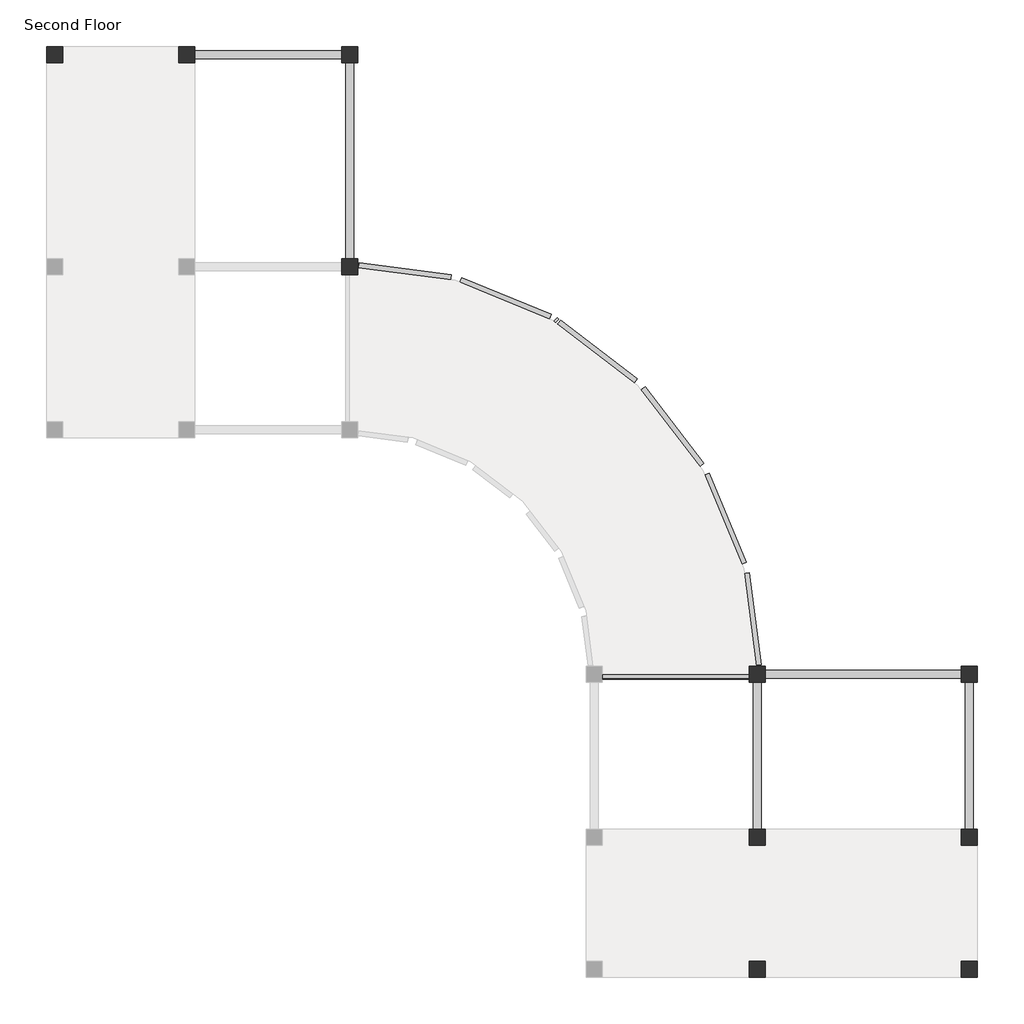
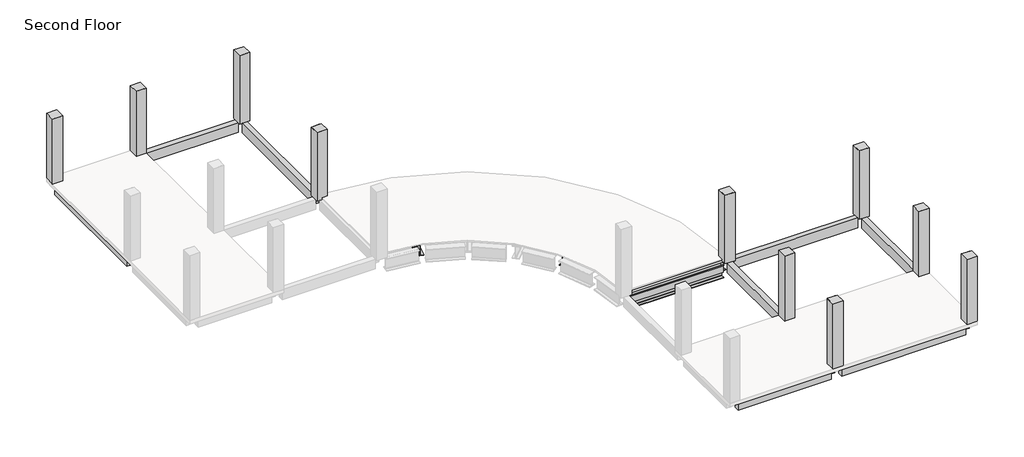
# One storey, part 2 of 2: 26 beams, 20 columns.
"""IFC4 building model written with IfcOpenShell, lengths in millimetres."""

from ifc_helpers import new_model, si_unit, frame, origin, place, context, project, spatial, polyline, outline, extrude, faceted_brep, transform, mapped, element, save
from components import w760x350_2a258063, w760x350_6f162b3c, w760x350_c36f9bc7, w760x350_5a9d4526, w760x350_679bfba7, w760x350_413a21e1, w760x350_305620d7, w760x350_b96b6d01

model = new_model("IFC4")

# Units and contexts
model_context = context("Model", 3, world=origin())
ifc_project = project(units=[si_unit("LENGTHUNIT", "METRE", prefix="MILLI")], contexts=[model_context])

# Site, building, storey
site = spatial("IfcSite", under=ifc_project)
building = spatial("IfcBuilding", under=site)
storey = spatial("IfcBuildingStorey", under=building, Name="Second Floor", Elevation=3048.0)

# Beams
placement = place(None, origin())
element("IfcBeam", 1, ObjectType="M_Concrete-Rectangular Beam : 300 x 600mm", at=placement, inside=storey, context=model_context, shape_type="SweptSolid", body=[
    extrude(outline(polyline([(-16304.9035319, 4112.1636035), (-16304.9035319, 4412.1636035), (-10808.9035319, 4412.1636035), (-10808.9035319, 4112.1636035), (-16304.9035319, 4112.1636035)])), frame((0.0, 0.0, 2448.0), z_axis=(0.0, 0.0, 1.0), x_axis=(1.0, 0.0, 0.0)), (0.0, 0.0, 1.0), 600.0),
])
element("IfcBeam", 2, ObjectType="M_Concrete-Rectangular Beam : 300 x 600mm", at=placement, inside=storey, context=model_context, shape_type="SweptSolid", body=[
    extrude(outline(polyline([(-21244.300634, 4112.1636035), (-21244.300634, 4412.1636035), (-16904.9035319, 4412.1636035), (-16904.9035319, 4112.1636035), (-21244.300634, 4112.1636035)])), frame((0.0, 0.0, 2448.0), z_axis=(0.0, 0.0, 1.0), x_axis=(1.0, 0.0, 0.0)), (0.0, 0.0, 1.0), 510.0),
])
element("IfcBeam", 3, ObjectType="M_Concrete-Rectangular Beam : 300 x 600mm", at=placement, inside=storey, context=model_context, shape_type="SweptSolid", body=[
    extrude(outline(polyline([(-21394.300634, -3362.8363965), (-21694.300634, -3362.8363965), (-21694.300634, 3962.1636035), (-21394.300634, 3962.1636035), (-21394.300634, -3362.8363965)])), frame((0.0, 0.0, 2448.0), z_axis=(0.0, 0.0, 1.0), x_axis=(1.0, 0.0, 0.0)), (0.0, 0.0, 1.0), 510.0),
])
element("IfcBeam", 4, ObjectType="M_Concrete-Rectangular Beam : 300 x 600mm", at=placement, inside=storey, context=model_context, shape_type="SweptSolid", body=[
    extrude(outline(polyline([(-16454.9035319, -3362.8363965), (-16754.9035319, -3362.8363965), (-16754.9035319, 3962.1636035), (-16454.9035319, 3962.1636035), (-16454.9035319, -3362.8363965)])), frame((0.0, 0.0, 2448.0), z_axis=(0.0, 0.0, 1.0), x_axis=(1.0, 0.0, 0.0)), (0.0, 0.0, 1.0), 510.0),
])
element("IfcBeam", 5, ObjectType="M_Concrete-Rectangular Beam : 300 x 600mm", at=placement, inside=storey, context=model_context, shape_type="SweptSolid", body=[
    extrude(outline(polyline([(-10358.9035319, -3362.8363965), (-10658.9035319, -3362.8363965), (-10658.9035319, 3962.1636035), (-10358.9035319, 3962.1636035), (-10358.9035319, -3362.8363965)])), frame((0.0, 0.0, 2448.0), z_axis=(0.0, 0.0, 1.0), x_axis=(1.0, 0.0, 0.0)), (0.0, 0.0, 1.0), 600.0),
])
element("IfcBeam", 6, ObjectType="M_Concrete-Rectangular Beam : 300 x 600mm", at=placement, inside=storey, context=model_context, shape_type="SweptSolid", body=[
    extrude(outline(polyline([(12806.0964681, -24698.8363965), (12506.0964681, -24698.8363965), (12506.0964681, -19202.8363965), (12806.0964681, -19202.8363965), (12806.0964681, -24698.8363965)])), frame((0.0, 0.0, 2448.0), z_axis=(0.0, 0.0, 1.0), x_axis=(1.0, 0.0, 0.0)), (0.0, 0.0, 1.0), 600.0),
])
element("IfcBeam", 7, ObjectType="M_Concrete-Rectangular Beam : 300 x 600mm", at=placement, inside=storey, context=model_context, shape_type="SweptSolid", body=[
    extrude(outline(polyline([(12806.0964681, -29638.2334986), (12506.0964681, -29638.2334986), (12506.0964681, -25298.8363965), (12806.0964681, -25298.8363965), (12806.0964681, -29638.2334986)])), frame((0.0, 0.0, 2448.0), z_axis=(0.0, 0.0, 1.0), x_axis=(1.0, 0.0, 0.0)), (0.0, 0.0, 1.0), 510.0),
])
element("IfcBeam", 8, ObjectType="M_Concrete-Rectangular Beam : 300 x 600mm", at=placement, inside=storey, context=model_context, shape_type="SweptSolid", body=[
    extrude(outline(polyline([(4881.0964681, -24698.8363965), (4581.0964681, -24698.8363965), (4581.0964681, -19202.8363965), (4881.0964681, -19202.8363965), (4881.0964681, -24698.8363965)])), frame((0.0, 0.0, 2448.0), z_axis=(0.0, 0.0, 1.0), x_axis=(1.0, 0.0, 0.0)), (0.0, 0.0, 1.0), 600.0),
])
element("IfcBeam", 9, ObjectType="M_Concrete-Rectangular Beam : 300 x 600mm", at=placement, inside=storey, context=model_context, shape_type="SweptSolid", body=[
    extrude(outline(polyline([(4881.0964681, -29638.2334986), (4581.0964681, -29638.2334986), (4581.0964681, -25298.8363965), (4881.0964681, -25298.8363965), (4881.0964681, -29638.2334986)])), frame((0.0, 0.0, 2448.0), z_axis=(0.0, 0.0, 1.0), x_axis=(1.0, 0.0, 0.0)), (0.0, 0.0, 1.0), 510.0),
])
element("IfcBeam", 10, ObjectType="M_Concrete-Rectangular Beam : 300 x 600mm", at=placement, inside=storey, context=model_context, shape_type="SweptSolid", body=[
    extrude(outline(polyline([(5031.0964681, -30088.2334986), (5031.0964681, -29788.2334986), (12356.0964681, -29788.2334986), (12356.0964681, -30088.2334986), (5031.0964681, -30088.2334986)])), frame((0.0, 0.0, 2448.0), z_axis=(0.0, 0.0, 1.0), x_axis=(1.0, 0.0, 0.0)), (0.0, 0.0, 1.0), 510.0),
])
element("IfcBeam", 11, ObjectType="M_Concrete-Rectangular Beam : 300 x 600mm", at=placement, inside=storey, context=model_context, shape_type="SweptSolid", body=[
    extrude(outline(polyline([(-1064.9035319, -30088.2334986), (-1064.9035319, -29788.2334986), (4431.0964681, -29788.2334986), (4431.0964681, -30088.2334986), (-1064.9035319, -30088.2334986)])), frame((0.0, 0.0, 2448.0), z_axis=(0.0, 0.0, 1.0), x_axis=(1.0, 0.0, 0.0)), (0.0, 0.0, 1.0), 510.0),
])
element("IfcBeam", 12, ObjectType="M_Concrete-Rectangular Beam : 300 x 600mm", at=placement, inside=storey, context=model_context, shape_type="SweptSolid", body=[
    extrude(outline(polyline([(-1064.9035319, -25148.8363965), (-1064.9035319, -24848.8363965), (4431.0964681, -24848.8363965), (4431.0964681, -25148.8363965), (-1064.9035319, -25148.8363965)])), frame((0.0, 0.0, 2448.0), z_axis=(0.0, 0.0, 1.0), x_axis=(1.0, 0.0, 0.0)), (0.0, 0.0, 1.0), 510.0),
])
element("IfcBeam", 13, ObjectType="M_Concrete-Rectangular Beam : 300 x 600mm", at=placement, inside=storey, context=model_context, shape_type="SweptSolid", body=[
    extrude(outline(polyline([(5031.0964681, -25148.8363965), (5031.0964681, -24848.8363965), (12356.0964681, -24848.8363965), (12356.0964681, -25148.8363965), (5031.0964681, -25148.8363965)])), frame((0.0, 0.0, 2448.0), z_axis=(0.0, 0.0, 1.0), x_axis=(1.0, 0.0, 0.0)), (0.0, 0.0, 1.0), 510.0),
])
element("IfcBeam", 14, ObjectType="M_Concrete-Rectangular Beam : 300 x 600mm", at=placement, inside=storey, context=model_context, shape_type="SweptSolid", body=[
    extrude(outline(polyline([(-1064.9035319, -19052.8363965), (-1064.9035319, -18752.8363965), (4431.0964681, -18752.8363965), (4431.0964681, -19052.8363965), (-1064.9035319, -19052.8363965)])), frame((0.0, 0.0, 2448.0), z_axis=(0.0, 0.0, 1.0), x_axis=(1.0, 0.0, 0.0)), (0.0, 0.0, 1.0), 600.0),
])
element("IfcBeam", 15, ObjectType="M_Concrete-Rectangular Beam : 300 x 600mm", at=placement, inside=storey, context=model_context, shape_type="SweptSolid", body=[
    extrude(outline(polyline([(5031.0964681, -19052.8363965), (5031.0964681, -18752.8363965), (12356.0964681, -18752.8363965), (12356.0964681, -19052.8363965), (5031.0964681, -19052.8363965)])), frame((0.0, 0.0, 2448.0), z_axis=(0.0, 0.0, 1.0), x_axis=(1.0, 0.0, 0.0)), (0.0, 0.0, 1.0), 600.0),
])
w760x350_shape = w760x350_2a258063(model_context)
element("IfcBeam", 16, ObjectType="M_W-Wide Flange : W760X350", at=placement, inside=storey, context=model_context, shape_type="MappedRepresentation", body=[
    mapped(w760x350_shape, transform((1683.0964681, -18902.8363965, 2523.5), x_axis=(-1.0, 0.0, 0.0), y_axis=(0.0, -1.0, 0.0), z_axis=(0.0, 0.0, 1.0))),
])
w760x350_2_shape = w760x350_6f162b3c(model_context)
element("IfcBeam", 17, ObjectType="M_W-Wide Flange : W760X350", at=placement, inside=storey, context=model_context, shape_type="MappedRepresentation", body=[
    mapped(w760x350_2_shape, transform((-2853.5481928, -5739.9645819, 2523.5), x_axis=(0.7071067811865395, -0.7071067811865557, 0.0), y_axis=(0.7071067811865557, 0.7071067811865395, 0.0), z_axis=(0.0, 0.0, 1.0))),
])
w760x350_3_shape = w760x350_c36f9bc7(model_context)
element("IfcBeam", 18, ObjectType="M_W-Wide Flange : W760X350", at=placement, inside=storey, context=model_context, shape_type="MappedRepresentation", body=[
    mapped(w760x350_3_shape, transform((-7353.381734, -7126.2687224, 2523.5), x_axis=(0.258819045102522, 0.965925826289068, 0.0), y_axis=(-0.965925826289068, 0.258819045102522, 0.0), z_axis=(0.0, 0.0, 1.0))),
])
element("IfcBeam", 19, ObjectType="M_W-Wide Flange : W760X350", at=placement, inside=storey, context=model_context, shape_type="MappedRepresentation", body=[
    mapped(w760x350_3_shape, transform((49.6781911, -12806.8363965, 2523.5), x_axis=(0.8660254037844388, 0.49999999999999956, 0.0), y_axis=(-0.49999999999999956, 0.8660254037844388, 0.0), z_axis=(0.0, 0.0, 1.0))),
])
element("IfcBeam", 20, ObjectType="M_W-Wide Flange : W760X350", at=placement, inside=storey, context=model_context, shape_type="MappedRepresentation", body=[
    mapped(w760x350_3_shape, transform((1267.6641423, -15747.3145986, 2523.5), x_axis=(0.9659258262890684, 0.2588190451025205, 0.0), y_axis=(-0.2588190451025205, 0.9659258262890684, 0.0), z_axis=(0.0, 0.0, 1.0))),
])
w760x350_4_shape = w760x350_5a9d4526(model_context)
element("IfcBeam", 21, ObjectType="M_W-Wide Flange : W760X350", at=placement, inside=storey, context=model_context, shape_type="MappedRepresentation", body=[
    mapped(w760x350_4_shape, transform((-1332.8922259, -6893.6419593, 2523.5), x_axis=(0.7953971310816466, -0.6060886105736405, 0.0), y_axis=(0.6060886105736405, 0.7953971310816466, 0.0), z_axis=(0.0, 0.0, 1.0))),
])
w760x350_5_shape = w760x350_679bfba7(model_context)
element("IfcBeam", 22, ObjectType="M_W-Wide Flange : W760X350", at=placement, inside=storey, context=model_context, shape_type="MappedRepresentation", body=[
    mapped(w760x350_5_shape, transform((1478.3637176, -9704.6827239, 2523.5), x_axis=(0.6087614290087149, -0.7933533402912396, 0.0), y_axis=(0.7933533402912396, 0.6087614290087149, 0.0), z_axis=(0.0, 0.0, 1.0))),
])
element("IfcBeam", 23, ObjectType="M_W-Wide Flange : W760X350", at=placement, inside=storey, context=model_context, shape_type="MappedRepresentation", body=[
    mapped(w760x350_5_shape, transform((3450.5648413, -13120.6352728, 2523.5), x_axis=(0.3826834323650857, -0.9238795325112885, 0.0), y_axis=(0.9238795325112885, 0.3826834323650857, 0.0), z_axis=(0.0, 0.0, 1.0))),
])
w760x350_6_shape = w760x350_413a21e1(model_context)
element("IfcBeam", 24, ObjectType="M_W-Wide Flange : W760X350", at=placement, inside=storey, context=model_context, shape_type="MappedRepresentation", body=[
    mapped(w760x350_6_shape, transform((4471.4512645, -16930.6352728, 2523.5), x_axis=(0.1305261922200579, -0.9914448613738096, 0.0), y_axis=(0.9914448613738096, 0.1305261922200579, 0.0), z_axis=(0.0, 0.0, 1.0))),
])
w760x350_7_shape = w760x350_305620d7(model_context)
element("IfcBeam", 25, ObjectType="M_W-Wide Flange : W760X350", at=placement, inside=storey, context=model_context, shape_type="MappedRepresentation", body=[
    mapped(w760x350_7_shape, transform((-8536.7024082, -3922.4816002, 2523.5), x_axis=(0.9914448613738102, -0.1305261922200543, 0.0), y_axis=(0.1305261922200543, 0.9914448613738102, 0.0), z_axis=(0.0, 0.0, 1.0))),
])
w760x350_8_shape = w760x350_b96b6d01(model_context)
element("IfcBeam", 26, ObjectType="M_W-Wide Flange : W760X350", at=placement, inside=storey, context=model_context, shape_type="MappedRepresentation", body=[
    mapped(w760x350_8_shape, transform((-4752.0478576, -4925.7348849, 2523.5), x_axis=(0.9251619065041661, -0.37957271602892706, 0.0), y_axis=(0.37957271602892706, 0.9251619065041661, 0.0), z_axis=(0.0, 0.0, 1.0))),
])

# Columns
element("IfcColumn", 27, ObjectType="M_Concrete-Rectangular-Column : 600 x 600mm", at=placement, inside=storey, context=model_context, shape_type="SweptSolid", body=[
    extrude(outline(polyline([(-21844.300634, 3962.1636035), (-21844.300634, 4562.1636035), (-21244.300634, 4562.1636035), (-21244.300634, 3962.1636035), (-21844.300634, 3962.1636035)])), frame((0.0, 0.0, 3168.0), z_axis=(0.0, 0.0, 1.0), x_axis=(1.0, 0.0, 0.0)), (0.0, 0.0, 1.0), 4057.0),
])
element("IfcColumn", 28, ObjectType="M_Concrete-Rectangular-Column : 600 x 600mm", at=placement, inside=storey, context=model_context, shape_type="SweptSolid", body=[
    extrude(outline(polyline([(-16904.9035319, 3962.1636035), (-16904.9035319, 4562.1636035), (-16304.9035319, 4562.1636035), (-16304.9035319, 3962.1636035), (-16904.9035319, 3962.1636035)])), frame((0.0, 0.0, 3168.0), z_axis=(0.0, 0.0, 1.0), x_axis=(1.0, 0.0, 0.0)), (0.0, 0.0, 1.0), 4057.0),
])
element("IfcColumn", 29, ObjectType="M_Concrete-Rectangular-Column : 600 x 600mm", at=placement, inside=storey, context=model_context, shape_type="Brep", body=[
    faceted_brep([(-10808.9035319, -3962.8363965, 3048.0), (-10808.9035319, -3362.8363965, 3048.0), (-10208.9035319, -3362.8363965, 3048.0), (-10208.9035319, -3962.8363965, 3048.0), (-10808.9035319, -3962.8363965, 7315.0), (-10808.9035319, -3362.8363965, 7315.0), (-10208.9035319, -3362.8363965, 7315.0), (-10208.9035319, -3962.8363965, 7315.0), (-10208.9035319, -3962.8363965, 3168.0), (-10208.9035319, -3702.3321458, 3168.0), (-10208.9035319, -3702.3321458, 3093.0), (-10208.9035319, -3962.8363965, 3093.0), (-10508.9035319, -3962.8363965, 3093.0), (-10508.9035319, -3962.8363965, 3168.0), (-10508.9035319, -3662.8363965, 3093.0), (-10508.9035319, -3662.8363965, 3168.0)], [[[0, 1, 2, 3]], [[1, 0, 4, 5]], [[2, 1, 5, 6]], [[3, 2, 6, 7, 8, 9, 10, 11]], [[0, 3, 11, 12, 13, 8, 7, 4]], [[5, 4, 7, 6]], [[14, 12, 11, 10]], [[15, 9, 8, 13]], [[15, 14, 10, 9]], [[14, 15, 13, 12]]]),
])
element("IfcColumn", 30, ObjectType="M_Concrete-Rectangular-Column : 600 x 600mm", at=placement, inside=storey, context=model_context, shape_type="SweptSolid", body=[
    extrude(outline(polyline([(-10808.9035319, 3962.1636035), (-10808.9035319, 4562.1636035), (-10208.9035319, 4562.1636035), (-10208.9035319, 3962.1636035), (-10808.9035319, 3962.1636035)])), frame((0.0, 0.0, 3048.0), z_axis=(0.0, 0.0, 1.0), x_axis=(1.0, 0.0, 0.0)), (0.0, 0.0, 1.0), 4267.0),
])
element("IfcColumn", 31, ObjectType="M_Concrete-Rectangular-Column : 600 x 600mm", at=placement, inside=storey, context=model_context, shape_type="Brep", body=[
    faceted_brep([(-21844.300634, 3962.1636035, 7225.0), (-21844.300634, 4562.1636035, 7225.0), (-21844.300634, 4562.1636035, 3168.0), (-21844.300634, 3962.1636035, 3168.0), (-21244.300634, 4562.1636035, 7225.0), (-21244.300634, 4562.1636035, 3168.0), (-21244.300634, 4412.1636035, 7225.0), (-21244.300634, 4112.1636035, 7225.0), (-21244.300634, 3962.1636035, 7225.0), (-21244.300634, 3962.1636035, 3168.0), (-21394.300634, 3962.1636035, 7225.0), (-21694.300634, 3962.1636035, 7225.0)], [[[0, 1, 2, 3]], [[1, 4, 5, 2]], [[4, 6, 7, 8, 9, 5]], [[8, 10, 11, 0, 3, 9]], [[1, 0, 11, 10, 8, 7, 6, 4]], [[3, 2, 5, 9]]]),
])
element("IfcColumn", 32, ObjectType="M_Concrete-Rectangular-Column : 600 x 600mm", at=placement, inside=storey, context=model_context, shape_type="Brep", body=[
    faceted_brep([(-16904.9035319, 3962.1636035, 7225.0), (-16904.9035319, 4112.1636035, 7225.0), (-16904.9035319, 4412.1636035, 7225.0), (-16904.9035319, 4562.1636035, 7225.0), (-16904.9035319, 4562.1636035, 3168.0), (-16904.9035319, 3962.1636035, 3168.0), (-16304.9035319, 4562.1636035, 7225.0), (-16304.9035319, 4562.1636035, 3168.0), (-16304.9035319, 3962.1636035, 7225.0), (-16304.9035319, 3962.1636035, 3168.0), (-16454.9035319, 3962.1636035, 7225.0), (-16754.9035319, 3962.1636035, 7225.0)], [[[0, 1, 2, 3, 4, 5]], [[3, 6, 7, 4]], [[6, 8, 9, 7]], [[8, 10, 11, 0, 5, 9]], [[3, 2, 1, 0, 11, 10, 8, 6]], [[5, 4, 7, 9]]]),
])
element("IfcColumn", 33, ObjectType="M_Concrete-Rectangular-Column : 600 x 600mm", at=placement, inside=storey, context=model_context, shape_type="Brep", body=[
    faceted_brep([(-10808.9035319, -3962.8363965, 3048.0), (-10808.9035319, -3362.8363965, 3048.0), (-10208.9035319, -3362.8363965, 3048.0), (-10208.9035319, -3962.8363965, 3048.0), (-10808.9035319, -3962.8363965, 7315.0), (-10808.9035319, -3812.8363965, 7315.0), (-10808.9035319, -3512.8363965, 7315.0), (-10808.9035319, -3362.8363965, 7315.0), (-10658.9035319, -3362.8363965, 7315.0), (-10358.9035319, -3362.8363965, 7315.0), (-10208.9035319, -3362.8363965, 7315.0), (-10208.9035319, -3962.8363965, 7315.0), (-10208.9035319, -3962.8363965, 3168.0), (-10208.9035319, -3702.3321458, 3168.0), (-10208.9035319, -3702.3321458, 3093.0), (-10208.9035319, -3962.8363965, 3093.0), (-10508.9035319, -3962.8363965, 3093.0), (-10508.9035319, -3962.8363965, 3168.0), (-10358.9035319, -3962.8363965, 7315.0), (-10658.9035319, -3962.8363965, 7315.0), (-10508.9035319, -3662.8363965, 3093.0), (-10508.9035319, -3662.8363965, 3168.0)], [[[0, 1, 2, 3]], [[1, 0, 4, 5, 6, 7]], [[2, 1, 7, 8, 9, 10]], [[3, 2, 10, 11, 12, 13, 14, 15]], [[0, 3, 15, 16, 17, 12, 11, 18, 19, 4]], [[7, 6, 5, 4, 19, 18, 11, 10, 9, 8]], [[20, 16, 15, 14]], [[21, 13, 12, 17]], [[21, 20, 14, 13]], [[20, 21, 17, 16]]]),
])
element("IfcColumn", 34, ObjectType="M_Concrete-Rectangular-Column : 600 x 600mm", at=placement, inside=storey, context=model_context, shape_type="Brep", body=[
    faceted_brep([(-10808.9035319, 3962.1636035, 3048.0), (-10808.9035319, 4562.1636035, 3048.0), (-10208.9035319, 4562.1636035, 3048.0), (-10208.9035319, 3962.1636035, 3048.0), (-10808.9035319, 3962.1636035, 7315.0), (-10808.9035319, 4112.1636035, 7315.0), (-10808.9035319, 4412.1636035, 7315.0), (-10808.9035319, 4562.1636035, 7315.0), (-10208.9035319, 4562.1636035, 7315.0), (-10208.9035319, 3962.1636035, 7315.0), (-10358.9035319, 3962.1636035, 7315.0), (-10658.9035319, 3962.1636035, 7315.0)], [[[0, 1, 2, 3]], [[4, 5, 6, 7, 1, 0]], [[7, 8, 2, 1]], [[8, 9, 3, 2]], [[9, 10, 11, 4, 0, 3]], [[4, 11, 10, 9, 8, 7, 6, 5]]]),
])
element("IfcColumn", 35, ObjectType="M_Concrete-Rectangular-Column : 600 x 600mm", at=placement, inside=storey, context=model_context, shape_type="SweptSolid", body=[
    extrude(outline(polyline([(5031.0964681, -30238.2334986), (4431.0964681, -30238.2334986), (4431.0964681, -29638.2334986), (5031.0964681, -29638.2334986), (5031.0964681, -30238.2334986)])), frame((0.0, 0.0, 3168.0), z_axis=(0.0, 0.0, 1.0), x_axis=(1.0, 0.0, 0.0)), (0.0, 0.0, 1.0), 4057.0),
])
element("IfcColumn", 36, ObjectType="M_Concrete-Rectangular-Column : 600 x 600mm", at=placement, inside=storey, context=model_context, shape_type="SweptSolid", body=[
    extrude(outline(polyline([(12956.0964681, -30238.2334986), (12356.0964681, -30238.2334986), (12356.0964681, -29638.2334986), (12956.0964681, -29638.2334986), (12956.0964681, -30238.2334986)])), frame((0.0, 0.0, 3168.0), z_axis=(0.0, 0.0, 1.0), x_axis=(1.0, 0.0, 0.0)), (0.0, 0.0, 1.0), 4057.0),
])
element("IfcColumn", 37, ObjectType="M_Concrete-Rectangular-Column : 600 x 600mm", at=placement, inside=storey, context=model_context, shape_type="SweptSolid", body=[
    extrude(outline(polyline([(5031.0964681, -25298.8363965), (4431.0964681, -25298.8363965), (4431.0964681, -24698.8363965), (5031.0964681, -24698.8363965), (5031.0964681, -25298.8363965)])), frame((0.0, 0.0, 3168.0), z_axis=(0.0, 0.0, 1.0), x_axis=(1.0, 0.0, 0.0)), (0.0, 0.0, 1.0), 4057.0),
])
element("IfcColumn", 38, ObjectType="M_Concrete-Rectangular-Column : 600 x 600mm", at=placement, inside=storey, context=model_context, shape_type="SweptSolid", body=[
    extrude(outline(polyline([(12956.0964681, -25298.8363965), (12356.0964681, -25298.8363965), (12356.0964681, -24698.8363965), (12956.0964681, -24698.8363965), (12956.0964681, -25298.8363965)])), frame((0.0, 0.0, 3168.0), z_axis=(0.0, 0.0, 1.0), x_axis=(1.0, 0.0, 0.0)), (0.0, 0.0, 1.0), 4057.0),
])
element("IfcColumn", 39, ObjectType="M_Concrete-Rectangular-Column : 600 x 600mm", at=placement, inside=storey, context=model_context, shape_type="Brep", body=[
    faceted_brep([(5031.0964681, -19202.8363965, 3048.0), (4431.0964681, -19202.8363965, 3048.0), (4431.0964681, -18602.8363965, 3048.0), (5031.0964681, -18602.8363965, 3048.0), (5031.0964681, -19202.8363965, 7315.0), (4431.0964681, -19202.8363965, 7315.0), (5031.0964681, -18602.8363965, 7315.0), (4431.0964681, -18602.8363965, 3093.0), (4691.6007189, -18602.8363965, 3093.0), (4691.6007189, -18602.8363965, 3168.0), (4431.0964681, -18602.8363965, 3168.0), (4431.0964681, -18602.8363965, 7315.0), (4431.0964681, -18902.8363965, 3168.0), (4431.0964681, -18902.8363965, 3093.0), (4731.0964681, -18902.8363965, 3093.0), (4731.0964681, -18902.8363965, 3168.0)], [[[0, 1, 2, 3]], [[1, 0, 4, 5]], [[0, 3, 6, 4]], [[3, 2, 7, 8, 9, 10, 11, 6]], [[2, 1, 5, 11, 10, 12, 13, 7]], [[5, 4, 6, 11]], [[13, 14, 8, 7]], [[9, 15, 12, 10]], [[14, 15, 9, 8]], [[15, 14, 13, 12]]]),
])
element("IfcColumn", 40, ObjectType="M_Concrete-Rectangular-Column : 600 x 600mm", at=placement, inside=storey, context=model_context, shape_type="SweptSolid", body=[
    extrude(outline(polyline([(12356.0964681, -19202.8363965), (12356.0964681, -18602.8363965), (12956.0964681, -18602.8363965), (12956.0964681, -19202.8363965), (12356.0964681, -19202.8363965)])), frame((0.0, 0.0, 3048.0), z_axis=(0.0, 0.0, 1.0), x_axis=(1.0, 0.0, 0.0)), (0.0, 0.0, 1.0), 4267.0),
])
element("IfcColumn", 41, ObjectType="M_Concrete-Rectangular-Column : 600 x 600mm", at=placement, inside=storey, context=model_context, shape_type="Brep", body=[
    faceted_brep([(5031.0964681, -30238.2334986, 7225.0), (4431.0964681, -30238.2334986, 7225.0), (4431.0964681, -30238.2334986, 3168.0), (5031.0964681, -30238.2334986, 3168.0), (5031.0964681, -29638.2334986, 7225.0), (5031.0964681, -29788.2334986, 7225.0), (5031.0964681, -30088.2334986, 7225.0), (5031.0964681, -29638.2334986, 3168.0), (4431.0964681, -29638.2334986, 7225.0), (4581.0964681, -29638.2334986, 7225.0), (4881.0964681, -29638.2334986, 7225.0), (4431.0964681, -29638.2334986, 3168.0), (4431.0964681, -30088.2334986, 7225.0), (4431.0964681, -29788.2334986, 7225.0)], [[[0, 1, 2, 3]], [[4, 5, 6, 0, 3, 7]], [[8, 9, 10, 4, 7, 11]], [[1, 12, 13, 8, 11, 2]], [[1, 0, 6, 5, 4, 10, 9, 8, 13, 12]], [[3, 2, 11, 7]]]),
])
element("IfcColumn", 42, ObjectType="M_Concrete-Rectangular-Column : 600 x 600mm", at=placement, inside=storey, context=model_context, shape_type="Brep", body=[
    faceted_brep([(12956.0964681, -30238.2334986, 7225.0), (12356.0964681, -30238.2334986, 7225.0), (12356.0964681, -30238.2334986, 3168.0), (12956.0964681, -30238.2334986, 3168.0), (12956.0964681, -29638.2334986, 7225.0), (12956.0964681, -29638.2334986, 3168.0), (12356.0964681, -29638.2334986, 7225.0), (12506.0964681, -29638.2334986, 7225.0), (12806.0964681, -29638.2334986, 7225.0), (12356.0964681, -29638.2334986, 3168.0), (12356.0964681, -30088.2334986, 7225.0), (12356.0964681, -29788.2334986, 7225.0)], [[[0, 1, 2, 3]], [[4, 0, 3, 5]], [[6, 7, 8, 4, 5, 9]], [[1, 10, 11, 6, 9, 2]], [[1, 0, 4, 8, 7, 6, 11, 10]], [[3, 2, 9, 5]]]),
])
element("IfcColumn", 43, ObjectType="M_Concrete-Rectangular-Column : 600 x 600mm", at=placement, inside=storey, context=model_context, shape_type="Brep", body=[
    faceted_brep([(5031.0964681, -25298.8363965, 7225.0), (4881.0964681, -25298.8363965, 7225.0), (4581.0964681, -25298.8363965, 7225.0), (4431.0964681, -25298.8363965, 7225.0), (4431.0964681, -25298.8363965, 3168.0), (5031.0964681, -25298.8363965, 3168.0), (5031.0964681, -24698.8363965, 7225.0), (5031.0964681, -24848.8363965, 7225.0), (5031.0964681, -25148.8363965, 7225.0), (5031.0964681, -24698.8363965, 3168.0), (4431.0964681, -24698.8363965, 7225.0), (4431.0964681, -24698.8363965, 3168.0), (4431.0964681, -25148.8363965, 7225.0), (4431.0964681, -24848.8363965, 7225.0)], [[[0, 1, 2, 3, 4, 5]], [[6, 7, 8, 0, 5, 9]], [[10, 6, 9, 11]], [[3, 12, 13, 10, 11, 4]], [[3, 2, 1, 0, 8, 7, 6, 10, 13, 12]], [[5, 4, 11, 9]]]),
])
element("IfcColumn", 44, ObjectType="M_Concrete-Rectangular-Column : 600 x 600mm", at=placement, inside=storey, context=model_context, shape_type="Brep", body=[
    faceted_brep([(12956.0964681, -25298.8363965, 7225.0), (12806.0964681, -25298.8363965, 7225.0), (12506.0964681, -25298.8363965, 7225.0), (12356.0964681, -25298.8363965, 7225.0), (12356.0964681, -25298.8363965, 3168.0), (12956.0964681, -25298.8363965, 3168.0), (12956.0964681, -24698.8363965, 7225.0), (12956.0964681, -24698.8363965, 3168.0), (12356.0964681, -24698.8363965, 7225.0), (12356.0964681, -24698.8363965, 3168.0), (12356.0964681, -25148.8363965, 7225.0), (12356.0964681, -24848.8363965, 7225.0)], [[[0, 1, 2, 3, 4, 5]], [[6, 0, 5, 7]], [[8, 6, 7, 9]], [[3, 10, 11, 8, 9, 4]], [[3, 2, 1, 0, 6, 8, 11, 10]], [[5, 4, 9, 7]]]),
])
element("IfcColumn", 45, ObjectType="M_Concrete-Rectangular-Column : 600 x 600mm", at=placement, inside=storey, context=model_context, shape_type="Brep", body=[
    faceted_brep([(5031.0964681, -19202.8363965, 3048.0), (4431.0964681, -19202.8363965, 3048.0), (4431.0964681, -18602.8363965, 3048.0), (5031.0964681, -18602.8363965, 3048.0), (5031.0964681, -19202.8363965, 7315.0), (4881.0964681, -19202.8363965, 7315.0), (4581.0964681, -19202.8363965, 7315.0), (4431.0964681, -19202.8363965, 7315.0), (5031.0964681, -18602.8363965, 7315.0), (5031.0964681, -18752.8363965, 7315.0), (5031.0964681, -19052.8363965, 7315.0), (4431.0964681, -18602.8363965, 3093.0), (4691.6007189, -18602.8363965, 3093.0), (4691.6007189, -18602.8363965, 3168.0), (4431.0964681, -18602.8363965, 3168.0), (4431.0964681, -18602.8363965, 7315.0), (4431.0964681, -19052.8363965, 7315.0), (4431.0964681, -18752.8363965, 7315.0), (4431.0964681, -18902.8363965, 3168.0), (4431.0964681, -18902.8363965, 3093.0), (4731.0964681, -18902.8363965, 3093.0), (4731.0964681, -18902.8363965, 3168.0)], [[[0, 1, 2, 3]], [[1, 0, 4, 5, 6, 7]], [[0, 3, 8, 9, 10, 4]], [[3, 2, 11, 12, 13, 14, 15, 8]], [[2, 1, 7, 16, 17, 15, 14, 18, 19, 11]], [[7, 6, 5, 4, 10, 9, 8, 15, 17, 16]], [[19, 20, 12, 11]], [[13, 21, 18, 14]], [[20, 21, 13, 12]], [[21, 20, 19, 18]]]),
])
element("IfcColumn", 46, ObjectType="M_Concrete-Rectangular-Column : 600 x 600mm", at=placement, inside=storey, context=model_context, shape_type="Brep", body=[
    faceted_brep([(12356.0964681, -19202.8363965, 3048.0), (12356.0964681, -18602.8363965, 3048.0), (12956.0964681, -18602.8363965, 3048.0), (12956.0964681, -19202.8363965, 3048.0), (12356.0964681, -19202.8363965, 7315.0), (12956.0964681, -19202.8363965, 7315.0), (12806.0964681, -19202.8363965, 7315.0), (12506.0964681, -19202.8363965, 7315.0), (12956.0964681, -18602.8363965, 7315.0), (12356.0964681, -18602.8363965, 7315.0), (12356.0964681, -19052.8363965, 7315.0), (12356.0964681, -18752.8363965, 7315.0)], [[[0, 1, 2, 3]], [[4, 0, 3, 5, 6, 7]], [[5, 3, 2, 8]], [[8, 2, 1, 9]], [[9, 1, 0, 4, 10, 11]], [[4, 7, 6, 5, 8, 9, 11, 10]]]),
])

save(model, "model.ifc")
